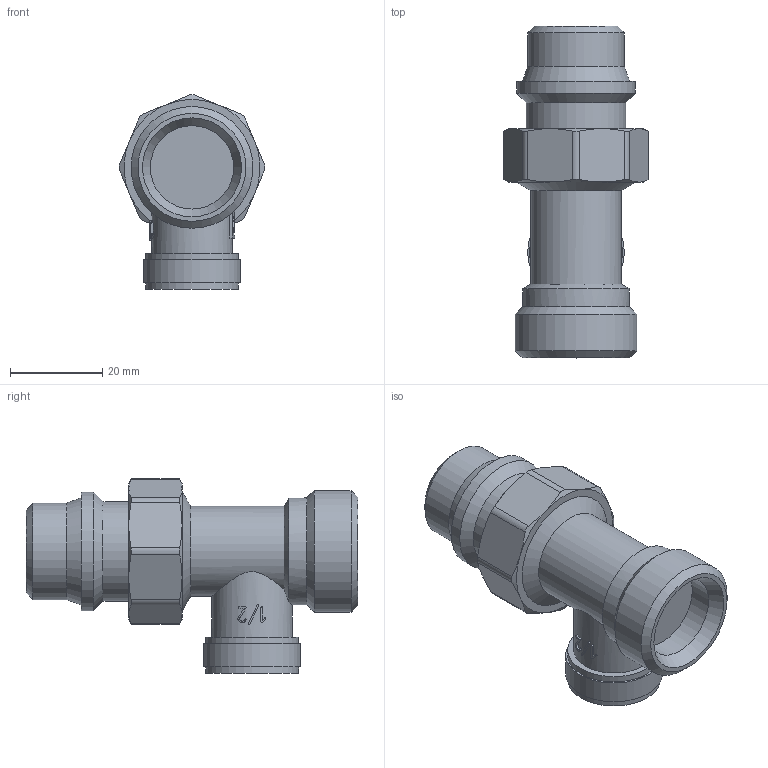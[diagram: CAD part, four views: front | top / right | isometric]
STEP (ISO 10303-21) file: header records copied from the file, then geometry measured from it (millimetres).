
FILE_DESCRIPTION(('STEP AP203'), '1');
FILE_NAME('VT.020.NER.04', '2024-09-16T06:21:39', ('User'), ('Vesta'), 'C3D Converter', 'C3D Toolkit', '');
FILE_SCHEMA(('CONFIG_CONTROL_DESIGN'));
Length unit declared in the file: millimetre
Bounding box: 31.6 x 72.1 x 42.3 mm (x, y, z)
Volume: 34517.4 mm3; surface area: 8740.6 mm2
Topology: 1 solids, 1 shells, 139 faces, 348 edges, 224 vertices
Faces by surface type: plane 47, extrusion 42, cylinder 26, cone 24
Full cylindrical faces by diameter (mm): 17.5 x1, 18.1 x1, 19.6 x1, 20.2 x2, 20.955 x1, 21 x1, 21.6 x1, 23.2 x1, 25.8 x1, 26.441 x1
Entity records: 6581 total; most frequent: CARTESIAN_POINT 3611, ORIENTED_EDGE 632, DIRECTION 436, VERTEX_POINT 338, EDGE_CURVE 316, B_SPLINE_CURVE_WITH_KNOTS 174, EDGE_LOOP 163, VECTOR 146
